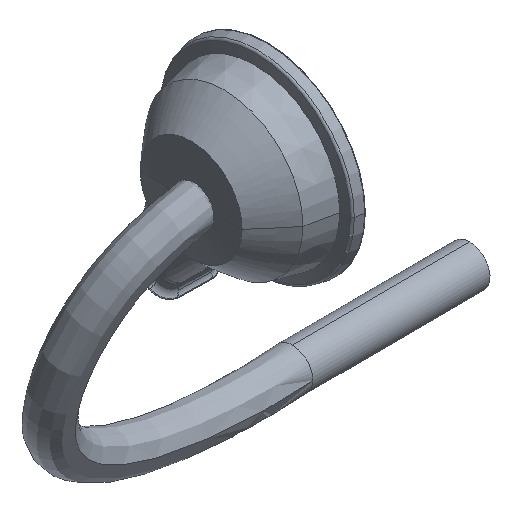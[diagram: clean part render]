
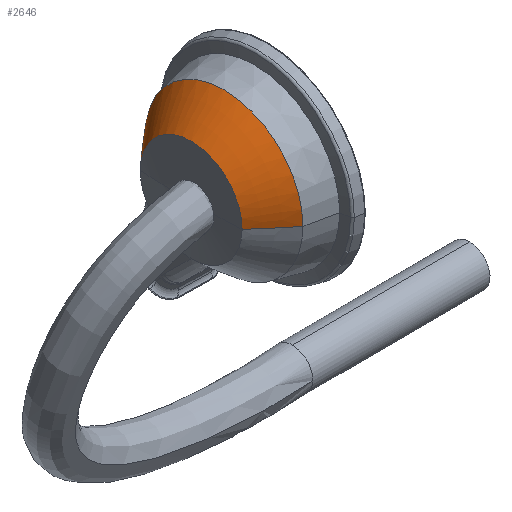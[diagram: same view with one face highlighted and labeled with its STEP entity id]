
A CAD part, isometric view. The second image highlights one B-rep face of the part: STEP entity #2646.
In plain terms, the highlighted toroidal (fillet/blend) face has major radius 495.487 mm and minor radius 759.141 mm.
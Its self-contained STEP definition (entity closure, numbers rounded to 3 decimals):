
#90 = DIRECTION ( 'NONE',  ( 0., 0., 1. ) ) ;
#342 = DIRECTION ( 'NONE',  ( -1., 0., 0. ) ) ;
#370 = CARTESIAN_POINT ( 'NONE',  ( 453.505, 495.487, 2266. ) ) ;
#434 = CIRCLE ( 'NONE', #7973, 65. ) ;
#533 = CARTESIAN_POINT ( 'NONE',  ( -16.5, 0., 2266. ) ) ;
#632 = EDGE_CURVE ( 'NONE', #3263, #3461, #434, .T. ) ;
#1066 = EDGE_CURVE ( 'NONE', #7602, #3461, #4068, .T. ) ;
#1112 = ORIENTED_EDGE ( 'NONE', *, *, #4049, .F. ) ;
#1176 = CARTESIAN_POINT ( 'NONE',  ( -16.5, -100.659, 2266. ) ) ;
#1336 = AXIS2_PLACEMENT_3D ( 'NONE', #370, #6069, #2224 ) ;
#1490 = AXIS2_PLACEMENT_3D ( 'NONE', #5007, #90, #2559 ) ;
#1609 = CIRCLE ( 'NONE', #1490, 759.141 ) ;
#1709 = CARTESIAN_POINT ( 'NONE',  ( 453.505, 0., 2266. ) ) ;
#1904 = ORIENTED_EDGE ( 'NONE', *, *, #4035, .T. ) ;
#1933 = DIRECTION ( 'NONE',  ( 0., 0., 1. ) ) ;
#1995 = CIRCLE ( 'NONE', #2257, 100.659 ) ;
#2224 = DIRECTION ( 'NONE',  ( 0., 1., 0. ) ) ;
#2257 = AXIS2_PLACEMENT_3D ( 'NONE', #533, #4265, #7536 ) ;
#2361 = CARTESIAN_POINT ( 'NONE',  ( -58.5, 65., 2266. ) ) ;
#2559 = DIRECTION ( 'NONE',  ( 0., -1., 0. ) ) ;
#2609 = FACE_OUTER_BOUND ( 'NONE', #7709, .T. ) ;
#2646 = ADVANCED_FACE ( 'NONE', ( #2609 ), #7853, .T. ) ;
#2814 = DIRECTION ( 'NONE',  ( 0., -1., 0. ) ) ;
#2890 = CARTESIAN_POINT ( 'NONE',  ( -58.5, -65., 2266. ) ) ;
#3193 = CARTESIAN_POINT ( 'NONE',  ( -58.5, 0., 2266. ) ) ;
#3232 = DIRECTION ( 'NONE',  ( 1., 0., 0. ) ) ;
#3263 = VERTEX_POINT ( 'NONE', #2361 ) ;
#3461 = VERTEX_POINT ( 'NONE', #2890 ) ;
#4035 = EDGE_CURVE ( 'NONE', #6218, #3263, #1609, .T. ) ;
#4049 = EDGE_CURVE ( 'NONE', #6218, #7602, #1995, .T. ) ;
#4068 = CIRCLE ( 'NONE', #1336, 759.141 ) ;
#4265 = DIRECTION ( 'NONE',  ( 1., 0., 0. ) ) ;
#5007 = CARTESIAN_POINT ( 'NONE',  ( 453.505, -495.487, 2266. ) ) ;
#6069 = DIRECTION ( 'NONE',  ( 0., 0., -1. ) ) ;
#6218 = VERTEX_POINT ( 'NONE', #7405 ) ;
#6408 = ORIENTED_EDGE ( 'NONE', *, *, #1066, .F. ) ;
#6472 = ORIENTED_EDGE ( 'NONE', *, *, #632, .T. ) ;
#6687 = AXIS2_PLACEMENT_3D ( 'NONE', #1709, #342, #2814 ) ;
#7405 = CARTESIAN_POINT ( 'NONE',  ( -16.5, 100.659, 2266. ) ) ;
#7536 = DIRECTION ( 'NONE',  ( 0., 1., 0. ) ) ;
#7602 = VERTEX_POINT ( 'NONE', #1176 ) ;
#7709 = EDGE_LOOP ( 'NONE', ( #1112, #1904, #6472, #6408 ) ) ;
#7853 = TOROIDAL_SURFACE ( 'NONE', #6687, -495.487, 759.141 ) ;
#7973 = AXIS2_PLACEMENT_3D ( 'NONE', #3193, #3232, #1933 ) ;
